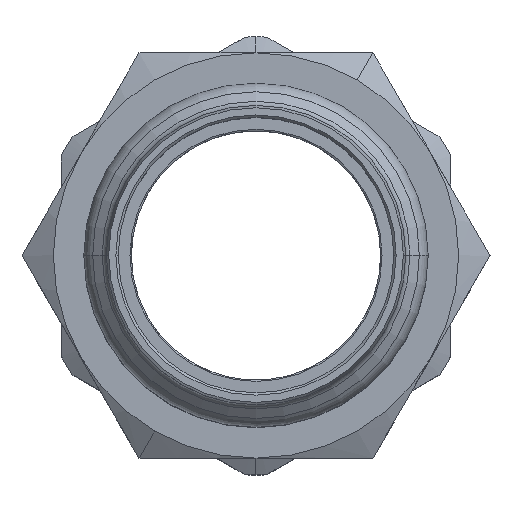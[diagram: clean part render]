
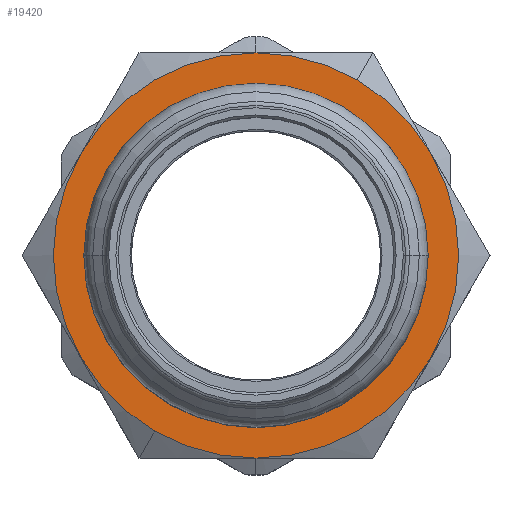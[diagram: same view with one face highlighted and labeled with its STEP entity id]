
A CAD part, top view. The second image highlights one B-rep face of the part: STEP entity #19420.
In plain terms, the highlighted planar face has unit normal (0, 0, 1) as drawn and (0, 0, -1) by its records, which use the part's own axes.
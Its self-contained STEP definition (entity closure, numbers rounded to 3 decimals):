
#18790=CARTESIAN_POINT('',(0.,0.,0.));
#18800=DIRECTION('',(0.,0.,1.));
#18810=DIRECTION('',(1.,0.,0.));
#18820=AXIS2_PLACEMENT_3D('',#18790,#18800,#18810);
#18830=PLANE('',#18820);
#18840=CARTESIAN_POINT('',(56.218,65.017,0.));
#18850=DIRECTION('',(0.,0.,-1.));
#18860=DIRECTION('',(-1.,0.,0.));
#18870=AXIS2_PLACEMENT_3D('',#18840,#18850,#18860);
#18880=CIRCLE('',#18870,22.1);
#18890=CARTESIAN_POINT('',(56.218,42.917,0.));
#18900=VERTEX_POINT('',#18890);
#18910=CARTESIAN_POINT('',(34.118,65.017,0.));
#18920=VERTEX_POINT('',#18910);
#18930=EDGE_CURVE('',#18900,#18920,#18880,.T.);
#18940=ORIENTED_EDGE('',*,*,#18930,.F.);
#18950=CARTESIAN_POINT('',(78.318,65.017,0.));
#18960=VERTEX_POINT('',#18950);
#18970=EDGE_CURVE('',#18920,#18960,#18880,.T.);
#18980=ORIENTED_EDGE('',*,*,#18970,.F.);
#18990=EDGE_CURVE('',#18960,#18900,#18880,.T.);
#19000=ORIENTED_EDGE('',*,*,#18990,.F.);
#19010=EDGE_LOOP('',(#19000,#18980,#18940));
#19020=FACE_BOUND('',#19010,.T.);
#19030=CARTESIAN_POINT('',(56.218,65.017,0.));
#19040=DIRECTION('',(0.,0.,1.));
#19050=DIRECTION('',(-0.5,0.866,0.));
#19060=AXIS2_PLACEMENT_3D('',#19030,#19040,#19050);
#19070=CIRCLE('',#19060,26.);
#19080=CARTESIAN_POINT('',(78.735,78.017,0.));
#19090=VERTEX_POINT('',#19080);
#19100=CARTESIAN_POINT('',(56.218,91.017,0.));
#19110=VERTEX_POINT('',#19100);
#19120=EDGE_CURVE('',#19090,#19110,#19070,.T.);
#19130=ORIENTED_EDGE('',*,*,#19120,.F.);
#19140=CARTESIAN_POINT('',(43.218,87.534,
0.));
#19150=VERTEX_POINT('',#19140);
#19160=EDGE_CURVE('',#19110,#19150,#19070,.T.);
#19170=ORIENTED_EDGE('',*,*,#19160,.F.);
#19180=CARTESIAN_POINT('',(33.702,78.017,0.));
#19190=VERTEX_POINT('',#19180);
#19200=EDGE_CURVE('',#19150,#19190,#19070,.T.);
#19210=ORIENTED_EDGE('',*,*,#19200,.F.);
#19220=CARTESIAN_POINT('',(33.702,52.017,
0.));
#19230=VERTEX_POINT('',#19220);
#19240=EDGE_CURVE('',#19190,#19230,#19070,.T.);
#19250=ORIENTED_EDGE('',*,*,#19240,.F.);
#19260=CARTESIAN_POINT('',(56.218,39.017,0.));
#19270=VERTEX_POINT('',#19260);
#19280=EDGE_CURVE('',#19230,#19270,#19070,.T.);
#19290=ORIENTED_EDGE('',*,*,#19280,.F.);
#19300=CARTESIAN_POINT('',(69.218,42.501,0.));
#19310=VERTEX_POINT('',#19300);
#19320=EDGE_CURVE('',#19270,#19310,#19070,.T.);
#19330=ORIENTED_EDGE('',*,*,#19320,.F.);
#19340=CARTESIAN_POINT('',(78.735,52.017,0.));
#19350=VERTEX_POINT('',#19340);
#19360=EDGE_CURVE('',#19310,#19350,#19070,.T.);
#19370=ORIENTED_EDGE('',*,*,#19360,.F.);
#19380=EDGE_CURVE('',#19350,#19090,#19070,.T.);
#19390=ORIENTED_EDGE('',*,*,#19380,.F.);
#19400=EDGE_LOOP('',(#19390,#19370,#19330,#19290,#19250,#19210,#19170,
#19130));
#19410=FACE_OUTER_BOUND('',#19400,.T.);
#19420=ADVANCED_FACE('',(#19020,#19410),#18830,.F.);
